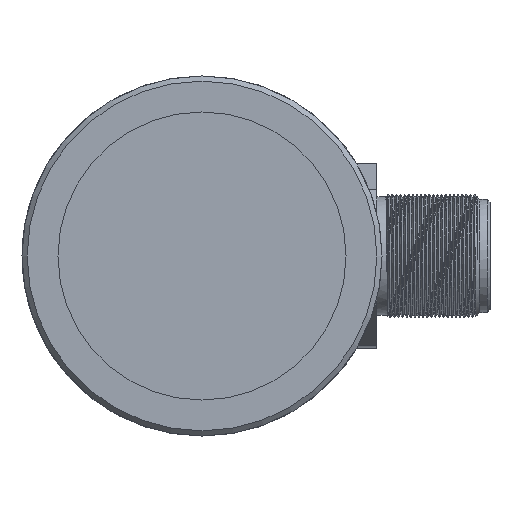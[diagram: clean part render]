
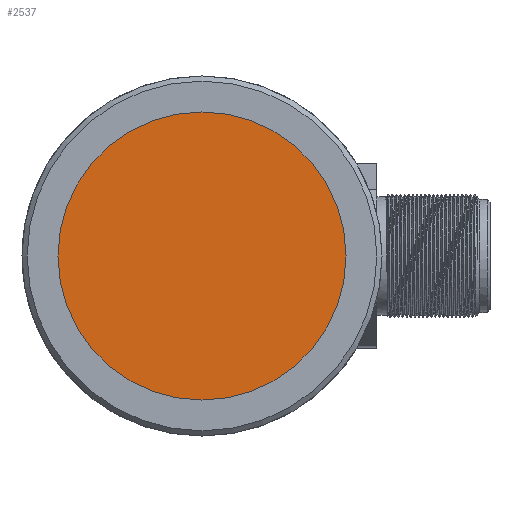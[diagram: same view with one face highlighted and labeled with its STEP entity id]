
A CAD part, left-side view. The second image highlights one B-rep face of the part: STEP entity #2537.
In plain terms, the highlighted planar face has unit normal (-1, 0, 0).
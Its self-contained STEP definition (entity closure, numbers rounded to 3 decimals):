
#661=PLANE('',#2718);
#777=VERTEX_POINT('',#2935);
#991=CIRCLE('',#2717,14.);
#1079=EDGE_CURVE('',#777,#777,#991,.T.);
#1428=ORIENTED_EDGE('',*,*,#1079,.T.);
#2114=EDGE_LOOP('',(#1428));
#2330=FACE_BOUND('',#2114,.T.);
#2537=ADVANCED_FACE('',(#2330),#661,.F.);
#2717=AXIS2_PLACEMENT_3D('',#2934,#14781,#14782);
#2718=AXIS2_PLACEMENT_3D('',#2936,#14783,$);
#2934=CARTESIAN_POINT('',(-41.,0.,0.));
#2935=CARTESIAN_POINT('',(-41.,0.,-14.));
#2936=CARTESIAN_POINT('',(-41.,0.,0.));
#14781=DIRECTION('',(-1.,0.,0.));
#14782=DIRECTION('',(0.,0.,-14.));
#14783=DIRECTION('',(1.,0.,0.));
